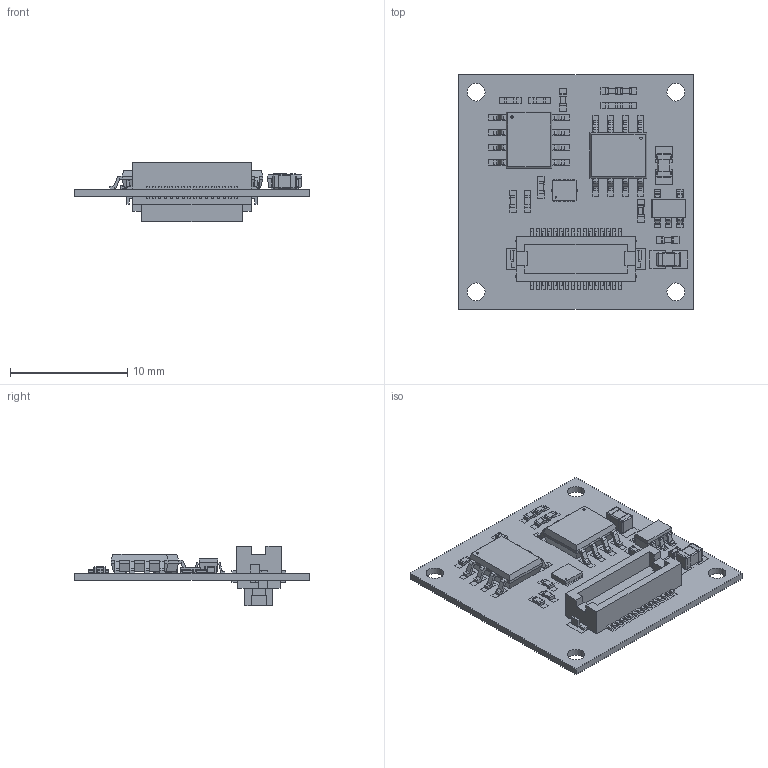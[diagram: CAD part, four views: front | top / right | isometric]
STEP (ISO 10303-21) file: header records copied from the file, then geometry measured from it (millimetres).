
FILE_DESCRIPTION(('FreeCAD Model'),'2;1');
FILE_NAME('/home/devy/MEGA/TinyCircuits/Assets/BoardsANDBoardModels_2/Shields/TinyCircuits-TinyShield-Memory-EEPROM-ASD2202/cad/TinyShield_EEPROM_ASD2202_REV3-STEP.step','2020-07-15T01:39:14',('Author'),(''), 'Open CASCADE STEP processor 7.4','FreeCAD','Unknown');
FILE_SCHEMA(('AUTOMOTIVE_DESIGN { 1 0 10303 214 1 1 1 1 }'));
Products named in the file (1): TinyShield_EEPROM_ASD2202_REV3-STEP
Bounding box: 20 x 20 x 5.1 mm (x, y, z)
Volume: 577.2 mm3; surface area: 2260.3 mm2
Topology: 372 solids, 372 shells, 4219 faces, 10705 edges, 8023 vertices
Faces by surface type: plane 3797, cylinder 322, sphere 80, revolution 20
Full cylindrical faces by diameter (mm): 0.5 x8, 0.652 x4, 1.502 x4
Entity records: 285853 total; most frequent: CARTESIAN_POINT 46144, DIRECTION 38694, LINE 27434, VECTOR 27434, ORIENTED_EDGE 19426, PCURVE 19426, DEFINITIONAL_REPRESENTATION 19426, EDGE_CURVE 9713
